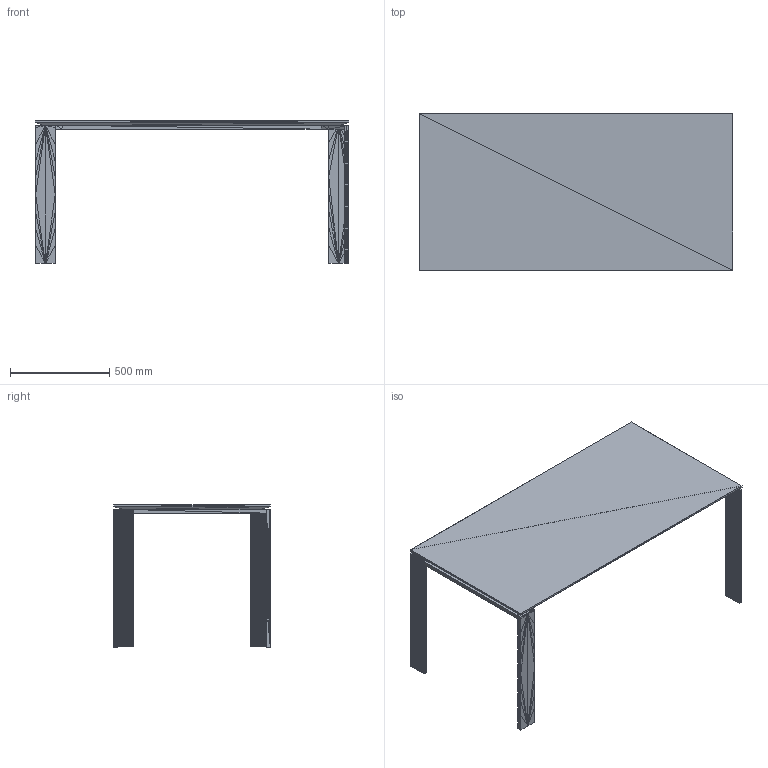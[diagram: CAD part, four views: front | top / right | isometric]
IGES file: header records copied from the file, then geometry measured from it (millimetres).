
Global section: file name: C:\Users\rendering\Desktop\3D\Four 158x79\Four_158x79_Ferruccio Laviani_Kartell.igs; native system: Rhinoceros ( May 22 2017 ); preprocessor: Trout Lake IGES 012 May 22 2017; date: 190301.162521; units: millimetre
Bounding box: 1580 x 790.16 x 719.82 mm (x, y, z)
Surface area: 6465085.3 mm2 (no closed solid volume)
Topology: 0 solids, 0 shells, 2968 faces, 8904 edges, 8904 vertices
Faces by surface type: bspline 2968
